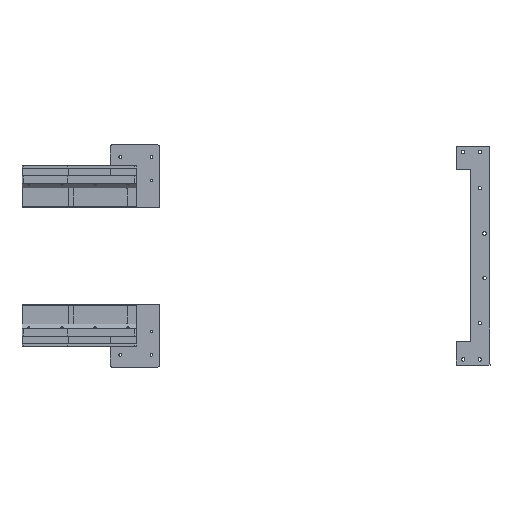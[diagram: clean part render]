
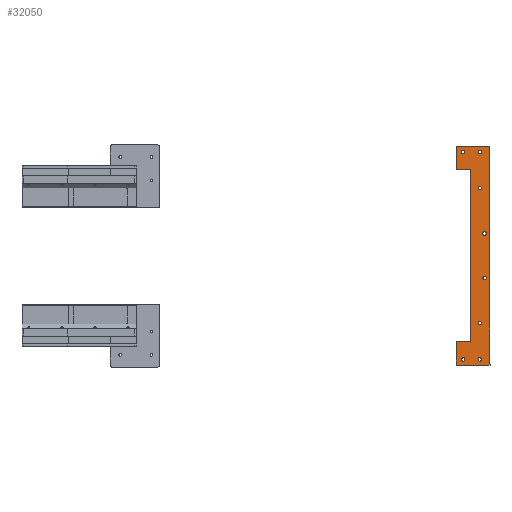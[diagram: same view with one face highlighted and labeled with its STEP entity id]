
A CAD part, top view. The second image highlights one B-rep face of the part: STEP entity #32050.
In plain terms, the highlighted planar face has unit normal (0, 0, 1).
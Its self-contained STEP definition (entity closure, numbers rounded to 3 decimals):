
#470=CIRCLE('',#33140,1.65);
#471=CIRCLE('',#33142,1.65);
#472=CIRCLE('',#33144,1.65);
#473=CIRCLE('',#33149,1.65);
#474=CIRCLE('',#33151,1.65);
#475=CIRCLE('',#33153,1.65);
#476=CIRCLE('',#33158,1.75);
#478=CIRCLE('',#33161,1.75);
#672=FACE_BOUND('',#6943,.T.);
#673=FACE_BOUND('',#6944,.T.);
#674=FACE_BOUND('',#6945,.T.);
#675=FACE_BOUND('',#6946,.T.);
#676=FACE_BOUND('',#6947,.T.);
#677=FACE_BOUND('',#6948,.T.);
#678=FACE_BOUND('',#6949,.T.);
#679=FACE_BOUND('',#6950,.T.);
#5065=FACE_OUTER_BOUND('',#6942,.T.);
#6942=EDGE_LOOP('',(#29697,#29698,#29699,#29700,#29701,#29702,#29703,#29704));
#6943=EDGE_LOOP('',(#29705));
#6944=EDGE_LOOP('',(#29706));
#6945=EDGE_LOOP('',(#29707));
#6946=EDGE_LOOP('',(#29708));
#6947=EDGE_LOOP('',(#29709));
#6948=EDGE_LOOP('',(#29710));
#6949=EDGE_LOOP('',(#29711));
#6950=EDGE_LOOP('',(#29712));
#9576=LINE('',#63059,#12235);
#9579=LINE('',#63064,#12238);
#9586=LINE('',#63077,#12245);
#9588=LINE('',#63081,#12247);
#9591=LINE('',#63089,#12250);
#9599=LINE('',#63110,#12258);
#9601=LINE('',#63113,#12260);
#9607=LINE('',#63131,#12266);
#12235=VECTOR('',#37905,10.);
#12238=VECTOR('',#37910,10.);
#12245=VECTOR('',#37921,10.);
#12247=VECTOR('',#37925,10.);
#12250=VECTOR('',#37930,10.);
#12258=VECTOR('',#37954,10.);
#12260=VECTOR('',#37958,10.);
#12266=VECTOR('',#37980,10.);
#15408=VERTEX_POINT('',#63056);
#15409=VERTEX_POINT('',#63058);
#15410=VERTEX_POINT('',#63062);
#15414=VERTEX_POINT('',#63075);
#15415=VERTEX_POINT('',#63079);
#15418=VERTEX_POINT('',#63086);
#15419=VERTEX_POINT('',#63088);
#15420=VERTEX_POINT('',#63092);
#15421=VERTEX_POINT('',#63096);
#15422=VERTEX_POINT('',#63100);
#15424=VERTEX_POINT('',#63109);
#15425=VERTEX_POINT('',#63115);
#15426=VERTEX_POINT('',#63119);
#15427=VERTEX_POINT('',#63123);
#15430=VERTEX_POINT('',#63138);
#15432=VERTEX_POINT('',#63144);
#20150=EDGE_CURVE('',#15409,#15408,#9576,.T.);
#20153=EDGE_CURVE('',#15408,#15410,#9579,.T.);
#20160=EDGE_CURVE('',#15414,#15410,#9586,.T.);
#20162=EDGE_CURVE('',#15414,#15415,#9588,.T.);
#20165=EDGE_CURVE('',#15418,#15419,#9591,.T.);
#20167=EDGE_CURVE('',#15420,#15420,#470,.F.);
#20169=EDGE_CURVE('',#15421,#15421,#471,.F.);
#20171=EDGE_CURVE('',#15422,#15422,#472,.T.);
#20176=EDGE_CURVE('',#15424,#15419,#9599,.T.);
#20178=EDGE_CURVE('',#15415,#15424,#9601,.T.);
#20179=EDGE_CURVE('',#15425,#15425,#473,.T.);
#20181=EDGE_CURVE('',#15426,#15426,#474,.F.);
#20183=EDGE_CURVE('',#15427,#15427,#475,.F.);
#20187=EDGE_CURVE('',#15418,#15409,#9607,.T.);
#20191=EDGE_CURVE('',#15430,#15430,#476,.T.);
#20194=EDGE_CURVE('',#15432,#15432,#478,.T.);
#29697=ORIENTED_EDGE('',*,*,#20187,.T.);
#29698=ORIENTED_EDGE('',*,*,#20150,.T.);
#29699=ORIENTED_EDGE('',*,*,#20153,.T.);
#29700=ORIENTED_EDGE('',*,*,#20160,.F.);
#29701=ORIENTED_EDGE('',*,*,#20162,.T.);
#29702=ORIENTED_EDGE('',*,*,#20178,.T.);
#29703=ORIENTED_EDGE('',*,*,#20176,.T.);
#29704=ORIENTED_EDGE('',*,*,#20165,.F.);
#29705=ORIENTED_EDGE('',*,*,#20171,.T.);
#29706=ORIENTED_EDGE('',*,*,#20179,.T.);
#29707=ORIENTED_EDGE('',*,*,#20183,.T.);
#29708=ORIENTED_EDGE('',*,*,#20169,.T.);
#29709=ORIENTED_EDGE('',*,*,#20167,.T.);
#29710=ORIENTED_EDGE('',*,*,#20181,.T.);
#29711=ORIENTED_EDGE('',*,*,#20194,.T.);
#29712=ORIENTED_EDGE('',*,*,#20191,.T.);
#30365=PLANE('',#33163);
#32050=ADVANCED_FACE('',(#5065,#672,#673,#674,#675,#676,#677,#678,#679),
#30365,.T.);
#33140=AXIS2_PLACEMENT_3D('',#63093,#37934,#37935);
#33142=AXIS2_PLACEMENT_3D('',#63097,#37939,#37940);
#33144=AXIS2_PLACEMENT_3D('',#63101,#37944,#37945);
#33149=AXIS2_PLACEMENT_3D('',#63116,#37961,#37962);
#33151=AXIS2_PLACEMENT_3D('',#63120,#37966,#37967);
#33153=AXIS2_PLACEMENT_3D('',#63124,#37971,#37972);
#33158=AXIS2_PLACEMENT_3D('',#63139,#37988,#37989);
#33161=AXIS2_PLACEMENT_3D('',#63145,#37995,#37996);
#33163=AXIS2_PLACEMENT_3D('',#63149,#38000,#38001);
#37905=DIRECTION('',(0.,-1.,0.));
#37910=DIRECTION('',(1.,0.,0.));
#37921=DIRECTION('',(0.,1.,0.));
#37925=DIRECTION('',(-1.,0.,0.));
#37930=DIRECTION('',(0.,-1.,0.));
#37934=DIRECTION('center_axis',(0.,0.,
1.));
#37935=DIRECTION('ref_axis',(0.,1.,0.));
#37939=DIRECTION('center_axis',(0.,0.,
1.));
#37940=DIRECTION('ref_axis',(0.,1.,0.));
#37944=DIRECTION('center_axis',(0.,0.,
-1.));
#37945=DIRECTION('ref_axis',(0.,1.,0.));
#37954=DIRECTION('',(1.,0.,0.));
#37958=DIRECTION('',(0.,-1.,0.));
#37961=DIRECTION('center_axis',(0.,0.,
-1.));
#37962=DIRECTION('ref_axis',(0.,1.,0.));
#37966=DIRECTION('center_axis',(0.,0.,
1.));
#37967=DIRECTION('ref_axis',(0.,1.,0.));
#37971=DIRECTION('center_axis',(0.,0.,
1.));
#37972=DIRECTION('ref_axis',(0.,1.,0.));
#37980=DIRECTION('',(-1.,0.,0.));
#37988=DIRECTION('center_axis',(0.,0.,
-1.));
#37989=DIRECTION('ref_axis',(0.,1.,0.));
#37995=DIRECTION('center_axis',(0.,0.,
-1.));
#37996=DIRECTION('ref_axis',(0.,1.,0.));
#38000=DIRECTION('center_axis',(0.,0.,
1.));
#38001=DIRECTION('ref_axis',(0.,1.,0.));
#63056=CARTESIAN_POINT('',(160.89,-226.95,167.143));
#63058=CARTESIAN_POINT('',(160.89,-204.2,167.143));
#63059=CARTESIAN_POINT('',(160.89,-249.7,167.143));
#63062=CARTESIAN_POINT('',(174.458,-226.95,167.143));
#63064=CARTESIAN_POINT('',(167.674,-226.95,167.143));
#63075=CARTESIAN_POINT('',(174.458,-392.45,167.143));
#63077=CARTESIAN_POINT('',(174.458,-249.7,167.143));
#63079=CARTESIAN_POINT('',(160.89,-392.45,167.143));
#63081=CARTESIAN_POINT('',(174.458,-392.45,167.143));
#63086=CARTESIAN_POINT('',(193.242,-204.2,167.143));
#63088=CARTESIAN_POINT('',(193.242,-415.2,167.143));
#63089=CARTESIAN_POINT('',(193.242,-369.7,167.143));
#63092=CARTESIAN_POINT('',(183.432,-411.35,167.143));
#63093=CARTESIAN_POINT('Origin',(183.432,-409.7,167.143));
#63096=CARTESIAN_POINT('',(183.432,-376.35,167.143));
#63097=CARTESIAN_POINT('Origin',(183.432,-374.7,167.143));
#63100=CARTESIAN_POINT('',(167.432,-411.35,167.143));
#63101=CARTESIAN_POINT('Origin',(167.432,-409.7,167.143));
#63109=CARTESIAN_POINT('',(160.89,-415.2,167.143));
#63110=CARTESIAN_POINT('',(191.242,-415.2,167.143));
#63113=CARTESIAN_POINT('',(160.89,-369.7,167.143));
#63115=CARTESIAN_POINT('',(167.432,-211.24,167.143));
#63116=CARTESIAN_POINT('Origin',(167.432,-209.59,167.143));
#63119=CARTESIAN_POINT('',(183.432,-246.24,167.143));
#63120=CARTESIAN_POINT('Origin',(183.432,-244.59,167.143));
#63123=CARTESIAN_POINT('',(183.432,-211.24,167.143));
#63124=CARTESIAN_POINT('Origin',(183.432,-209.59,167.143));
#63131=CARTESIAN_POINT('',(160.89,-204.2,167.143));
#63138=CARTESIAN_POINT('',(188.026,-332.95,167.143));
#63139=CARTESIAN_POINT('Origin',(188.026,-331.2,167.143));
#63144=CARTESIAN_POINT('',(188.026,-289.95,167.143));
#63145=CARTESIAN_POINT('Origin',(188.026,-288.2,167.143));
#63149=CARTESIAN_POINT('Origin',(182.85,-309.7,167.143));
